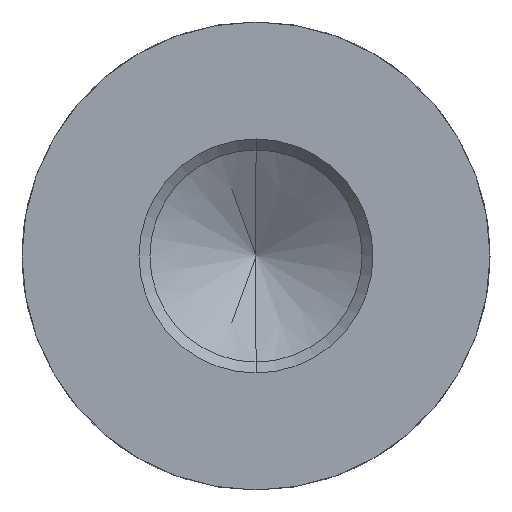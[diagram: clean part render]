
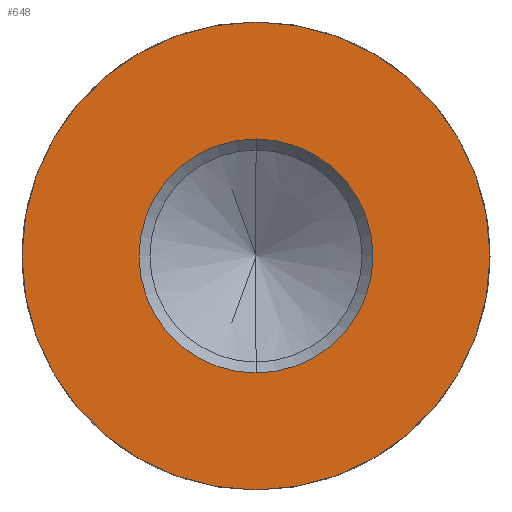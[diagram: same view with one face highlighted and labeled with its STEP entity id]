
A CAD part, front view. The second image highlights one B-rep face of the part: STEP entity #648.
In plain terms, the highlighted planar face has unit normal (0, -1, 0).
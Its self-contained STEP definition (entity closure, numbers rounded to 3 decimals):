
#8 = DIRECTION ( 'NONE',  ( 0., 0., -1. ) ) ;
#37 = DIRECTION ( 'NONE',  ( 0., 1., 0. ) ) ;
#41 = DIRECTION ( 'NONE',  ( 0., 0., 1. ) ) ;
#56 = DIRECTION ( 'NONE',  ( 0., -1., 0. ) ) ;
#58 = ORIENTED_EDGE ( 'NONE', *, *, #264, .T. ) ;
#62 = VERTEX_POINT ( 'NONE', #93 ) ;
#78 = ORIENTED_EDGE ( 'NONE', *, *, #117, .F. ) ;
#86 = DIRECTION ( 'NONE',  ( 0., 0., -1. ) ) ;
#90 = DIRECTION ( 'NONE',  ( 0., -1., 0. ) ) ;
#93 = CARTESIAN_POINT ( 'NONE',  ( 0., 0., 7.5 ) ) ;
#97 = DIRECTION ( 'NONE',  ( 0., 0., -1. ) ) ;
#103 = DIRECTION ( 'NONE',  ( 0., -1., 0. ) ) ;
#117 = EDGE_CURVE ( 'NONE', #305, #366, #349, .T. ) ;
#134 = CARTESIAN_POINT ( 'NONE',  ( 0., 0., -7.5 ) ) ;
#155 = CIRCLE ( 'NONE', #170, 7.5 ) ;
#169 = CARTESIAN_POINT ( 'NONE',  ( 0., 0., 0. ) ) ;
#170 = AXIS2_PLACEMENT_3D ( 'NONE', #169, #376, #224 ) ;
#177 = EDGE_LOOP ( 'NONE', ( #489, #58 ) ) ;
#180 = FACE_OUTER_BOUND ( 'NONE', #177, .T. ) ;
#182 = AXIS2_PLACEMENT_3D ( 'NONE', #506, #37, #41 ) ;
#204 = CIRCLE ( 'NONE', #312, 7.5 ) ;
#223 = EDGE_LOOP ( 'NONE', ( #584, #78 ) ) ;
#224 = DIRECTION ( 'NONE',  ( 0., 0., -1. ) ) ;
#231 = EDGE_CURVE ( 'NONE', #366, #305, #482, .T. ) ;
#264 = EDGE_CURVE ( 'NONE', #62, #568, #204, .T. ) ;
#282 = AXIS2_PLACEMENT_3D ( 'NONE', #504, #90, #86 ) ;
#305 = VERTEX_POINT ( 'NONE', #476 ) ;
#312 = AXIS2_PLACEMENT_3D ( 'NONE', #563, #56, #8 ) ;
#317 = FACE_BOUND ( 'NONE', #223, .T. ) ;
#319 = CARTESIAN_POINT ( 'NONE',  ( 0., 0., -3.75 ) ) ;
#348 = PLANE ( 'NONE',  #182 ) ;
#349 = CIRCLE ( 'NONE', #282, 3.75 ) ;
#366 = VERTEX_POINT ( 'NONE', #319 ) ;
#376 = DIRECTION ( 'NONE',  ( 0., -1., 0. ) ) ;
#432 = EDGE_CURVE ( 'NONE', #568, #62, #155, .T. ) ;
#476 = CARTESIAN_POINT ( 'NONE',  ( 0., 0., 3.75 ) ) ;
#482 = CIRCLE ( 'NONE', #616, 3.75 ) ;
#489 = ORIENTED_EDGE ( 'NONE', *, *, #432, .T. ) ;
#504 = CARTESIAN_POINT ( 'NONE',  ( 0., 0., 0. ) ) ;
#506 = CARTESIAN_POINT ( 'NONE',  ( -7.5, 0., 0. ) ) ;
#508 = CARTESIAN_POINT ( 'NONE',  ( 0., 0., 0. ) ) ;
#563 = CARTESIAN_POINT ( 'NONE',  ( 0., 0., 0. ) ) ;
#568 = VERTEX_POINT ( 'NONE', #134 ) ;
#584 = ORIENTED_EDGE ( 'NONE', *, *, #231, .F. ) ;
#616 = AXIS2_PLACEMENT_3D ( 'NONE', #508, #103, #97 ) ;
#648 = ADVANCED_FACE ( 'NONE', ( #317, #180 ), #348, .F. ) ;
